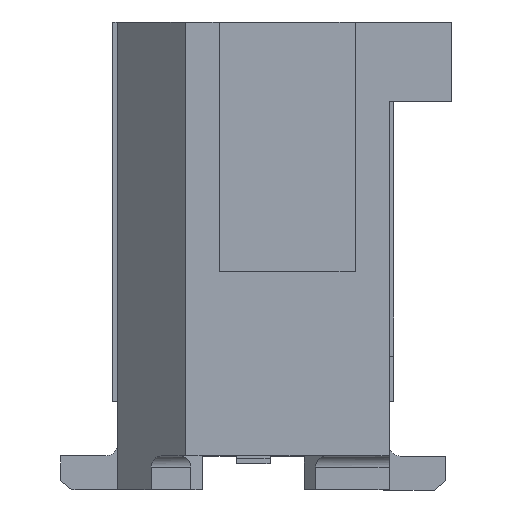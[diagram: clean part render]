
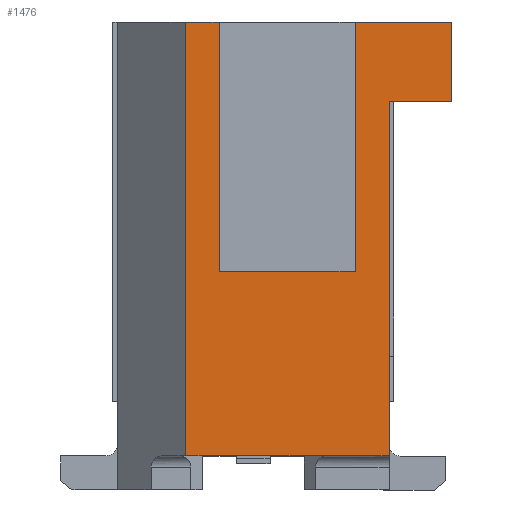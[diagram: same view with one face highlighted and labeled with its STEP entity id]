
A CAD part, left-side view. The second image highlights one B-rep face of the part: STEP entity #1476.
In plain terms, the highlighted planar face has unit normal (-1, 0, 0).
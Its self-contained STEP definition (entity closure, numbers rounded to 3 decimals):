
#277=CARTESIAN_POINT('Vertex',(-3.55,-0.64,4.13)) ;
#280=CARTESIAN_POINT('Line Origine',(-3.55,-0.79,4.13)) ;
#284=CARTESIAN_POINT('Vertex',(-3.55,-0.94,4.13)) ;
#305=CARTESIAN_POINT('Vertex',(-3.55,-2.14,4.13)) ;
#308=CARTESIAN_POINT('Line Origine',(-3.55,-2.565,4.13)) ;
#312=CARTESIAN_POINT('Vertex',(-3.55,-2.99,4.13)) ;
#1074=CARTESIAN_POINT('Vertex',(-3.55,-2.99,3.43)) ;
#1079=CARTESIAN_POINT('Line Origine',(-3.55,-2.715,3.43)) ;
#1083=CARTESIAN_POINT('Vertex',(-3.55,-2.44,3.43)) ;
#1377=CARTESIAN_POINT('Vertex',(-3.55,-0.64,0.299)) ;
#1380=CARTESIAN_POINT('Line Origine',(-3.55,-0.64,2.215)) ;
#1407=CARTESIAN_POINT('Axis2P3D Location',(-3.55,-0.64,0.)) ;
#1412=CARTESIAN_POINT('Line Origine',(-3.55,-2.99,3.78)) ;
#1417=CARTESIAN_POINT('Line Origine',(-3.55,-2.14,3.03)) ;
#1421=CARTESIAN_POINT('Vertex',(-3.55,-2.14,1.93)) ;
#1424=CARTESIAN_POINT('Line Origine',(-3.55,-1.54,1.93)) ;
#1428=CARTESIAN_POINT('Vertex',(-3.55,-0.94,1.93)) ;
#1431=CARTESIAN_POINT('Line Origine',(-3.55,-0.94,3.03)) ;
#1436=CARTESIAN_POINT('Line Origine',(-3.55,-0.715,0.299)) ;
#1440=CARTESIAN_POINT('Vertex',(-3.55,-0.79,0.299)) ;
#1443=CARTESIAN_POINT('Line Origine',(-3.55,-1.24,0.3)) ;
#1447=CARTESIAN_POINT('Vertex',(-3.55,-1.69,0.3)) ;
#1450=CARTESIAN_POINT('Line Origine',(-3.55,-2.065,0.299)) ;
#1454=CARTESIAN_POINT('Vertex',(-3.55,-2.44,0.299)) ;
#1457=CARTESIAN_POINT('Line Origine',(-3.55,-2.44,1.865)) ;
#281=DIRECTION('Vector Direction',(0.,-1.,0.)) ;
#309=DIRECTION('Vector Direction',(0.,-1.,0.)) ;
#1080=DIRECTION('Vector Direction',(0.,1.,0.)) ;
#1381=DIRECTION('Vector Direction',(0.,0.,1.)) ;
#1408=DIRECTION('Axis2P3D Direction',(-1.,0.,0.)) ;
#1409=DIRECTION('Axis2P3D XDirection',(0.,-1.,0.)) ;
#1413=DIRECTION('Vector Direction',(0.,0.,1.)) ;
#1418=DIRECTION('Vector Direction',(0.,0.,-1.)) ;
#1425=DIRECTION('Vector Direction',(0.,1.,0.)) ;
#1432=DIRECTION('Vector Direction',(0.,0.,-1.)) ;
#1437=DIRECTION('Vector Direction',(0.,-1.,0.)) ;
#1444=DIRECTION('Vector Direction',(0.,-1.,0.)) ;
#1451=DIRECTION('Vector Direction',(0.,-1.,0.)) ;
#1458=DIRECTION('Vector Direction',(0.,0.,-1.)) ;
#1410=AXIS2_PLACEMENT_3D('Plane Axis2P3D',#1407,#1408,#1409) ;
#1463=ORIENTED_EDGE('',*,*,#1085,.F.) ;
#1464=ORIENTED_EDGE('',*,*,#1416,.T.) ;
#1465=ORIENTED_EDGE('',*,*,#314,.F.) ;
#1466=ORIENTED_EDGE('',*,*,#1423,.T.) ;
#1467=ORIENTED_EDGE('',*,*,#1430,.F.) ;
#1468=ORIENTED_EDGE('',*,*,#1435,.F.) ;
#1469=ORIENTED_EDGE('',*,*,#286,.F.) ;
#1470=ORIENTED_EDGE('',*,*,#1384,.F.) ;
#1471=ORIENTED_EDGE('',*,*,#1442,.T.) ;
#1472=ORIENTED_EDGE('',*,*,#1449,.T.) ;
#1473=ORIENTED_EDGE('',*,*,#1456,.T.) ;
#1474=ORIENTED_EDGE('',*,*,#1461,.F.) ;
#282=VECTOR('Line Direction',#281,1.) ;
#310=VECTOR('Line Direction',#309,1.) ;
#1081=VECTOR('Line Direction',#1080,1.) ;
#1382=VECTOR('Line Direction',#1381,1.) ;
#1414=VECTOR('Line Direction',#1413,1.) ;
#1419=VECTOR('Line Direction',#1418,1.) ;
#1426=VECTOR('Line Direction',#1425,1.) ;
#1433=VECTOR('Line Direction',#1432,1.) ;
#1438=VECTOR('Line Direction',#1437,1.) ;
#1445=VECTOR('Line Direction',#1444,1.) ;
#1452=VECTOR('Line Direction',#1451,1.) ;
#1459=VECTOR('Line Direction',#1458,1.) ;
#1476=ADVANCED_FACE('INSULATOR-(BJF 6244603)',(#1475),#1411,.T.) ;
#286=EDGE_CURVE('',#278,#285,#283,.T.) ;
#314=EDGE_CURVE('',#306,#313,#311,.T.) ;
#1085=EDGE_CURVE('',#1075,#1084,#1082,.T.) ;
#1384=EDGE_CURVE('',#1378,#278,#1383,.T.) ;
#1416=EDGE_CURVE('',#1075,#313,#1415,.T.) ;
#1423=EDGE_CURVE('',#306,#1422,#1420,.T.) ;
#1430=EDGE_CURVE('',#1429,#1422,#1427,.F.) ;
#1435=EDGE_CURVE('',#285,#1429,#1434,.T.) ;
#1442=EDGE_CURVE('',#1378,#1441,#1439,.T.) ;
#1449=EDGE_CURVE('',#1441,#1448,#1446,.T.) ;
#1456=EDGE_CURVE('',#1448,#1455,#1453,.T.) ;
#1461=EDGE_CURVE('',#1084,#1455,#1460,.T.) ;
#1462=EDGE_LOOP('',(#1463,#1464,#1465,#1466,#1467,#1468,#1469,#1470,#1471,#1472,#1473,#1474)) ;
#1475=FACE_OUTER_BOUND('',#1462,.T.) ;
#283=LINE('Line',#280,#282) ;
#311=LINE('Line',#308,#310) ;
#1082=LINE('Line',#1079,#1081) ;
#1383=LINE('Line',#1380,#1382) ;
#1415=LINE('Line',#1412,#1414) ;
#1420=LINE('Line',#1417,#1419) ;
#1427=LINE('Line',#1424,#1426) ;
#1434=LINE('Line',#1431,#1433) ;
#1439=LINE('Line',#1436,#1438) ;
#1446=LINE('Line',#1443,#1445) ;
#1453=LINE('Line',#1450,#1452) ;
#1460=LINE('Line',#1457,#1459) ;
#1411=PLANE('',#1410) ;
#278=VERTEX_POINT('',#277) ;
#285=VERTEX_POINT('',#284) ;
#306=VERTEX_POINT('',#305) ;
#313=VERTEX_POINT('',#312) ;
#1075=VERTEX_POINT('',#1074) ;
#1084=VERTEX_POINT('',#1083) ;
#1378=VERTEX_POINT('',#1377) ;
#1422=VERTEX_POINT('',#1421) ;
#1429=VERTEX_POINT('',#1428) ;
#1441=VERTEX_POINT('',#1440) ;
#1448=VERTEX_POINT('',#1447) ;
#1455=VERTEX_POINT('',#1454) ;
